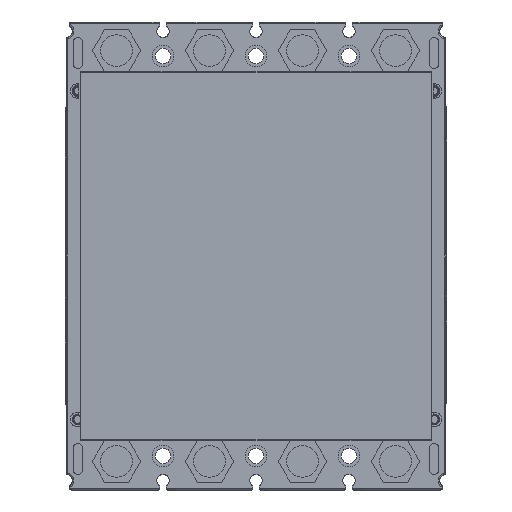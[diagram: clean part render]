
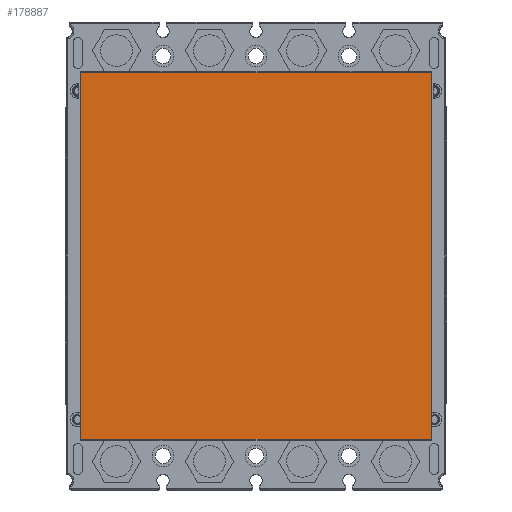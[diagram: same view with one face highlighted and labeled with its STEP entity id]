
A CAD part, front view. The second image highlights one B-rep face of the part: STEP entity #178887.
In plain terms, the highlighted planar face has unit normal (0, -1, 0).
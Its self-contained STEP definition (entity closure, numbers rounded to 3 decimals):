
#178808=DIRECTION('',(0.,0.,-1.));
#178809=VECTOR('',#178808,118.5);
#178810=CARTESIAN_POINT('',(-56.6,0.,59.25));
#178811=LINE('',#178810,#178809);
#178816=DIRECTION('',(1.,0.,0.));
#178817=VECTOR('',#178816,113.2);
#178818=CARTESIAN_POINT('',(-56.6,0.,-59.25));
#178819=LINE('',#178818,#178817);
#178824=DIRECTION('',(0.,0.,1.));
#178825=VECTOR('',#178824,118.5);
#178826=CARTESIAN_POINT('',(56.6,0.,-59.25));
#178827=LINE('',#178826,#178825);
#178832=DIRECTION('',(-1.,0.,0.));
#178833=VECTOR('',#178832,113.2);
#178834=CARTESIAN_POINT('',(56.6,0.,59.25));
#178835=LINE('',#178834,#178833);
#178856=CARTESIAN_POINT('',(-56.6,0.,59.25));
#178857=CARTESIAN_POINT('',(-56.6,0.,-59.25));
#178858=VERTEX_POINT('',#178856);
#178859=VERTEX_POINT('',#178857);
#178860=CARTESIAN_POINT('',(56.6,0.,59.25));
#178861=VERTEX_POINT('',#178860);
#178862=CARTESIAN_POINT('',(56.6,0.,-59.25));
#178863=VERTEX_POINT('',#178862);
#178872=CARTESIAN_POINT('',(0.,0.,0.));
#178873=DIRECTION('',(0.,1.,0.));
#178874=DIRECTION('',(1.,0.,0.));
#178875=AXIS2_PLACEMENT_3D('',#178872,#178873,#178874);
#178876=PLANE('',#178875);
#178878=ORIENTED_EDGE('',*,*,#178877,.F.);
#178880=ORIENTED_EDGE('',*,*,#178879,.F.);
#178882=ORIENTED_EDGE('',*,*,#178881,.F.);
#178884=ORIENTED_EDGE('',*,*,#178883,.F.);
#178885=EDGE_LOOP('',(#178878,#178880,#178882,#178884));
#178886=FACE_OUTER_BOUND('',#178885,.F.);
#178887=ADVANCED_FACE('',(#178886),#178876,.F.);
#178877=EDGE_CURVE('',#178858,#178859,#178811,.T.);
#178879=EDGE_CURVE('',#178861,#178858,#178835,.T.);
#178881=EDGE_CURVE('',#178863,#178861,#178827,.T.);
#178883=EDGE_CURVE('',#178859,#178863,#178819,.T.);
